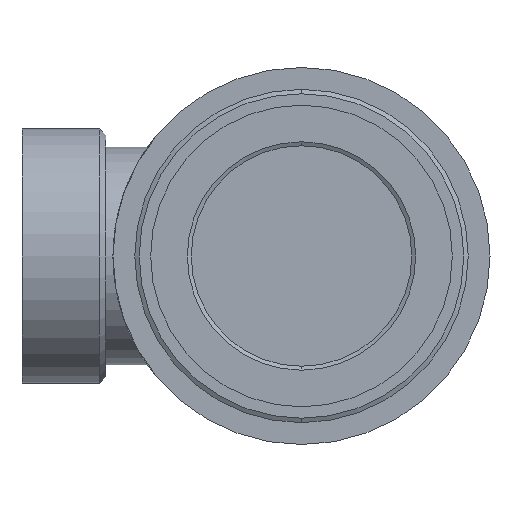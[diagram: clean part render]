
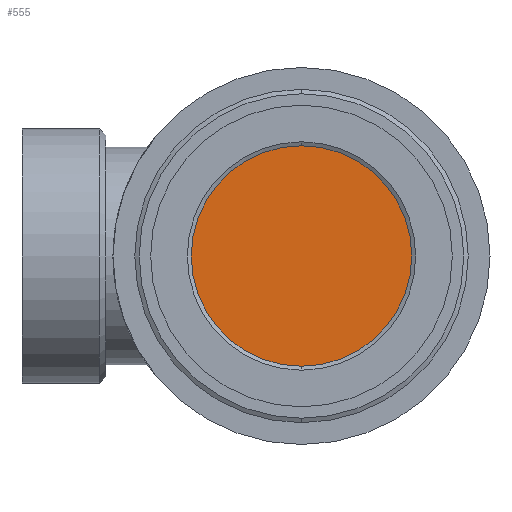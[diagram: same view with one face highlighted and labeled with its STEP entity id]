
A CAD part, front view. The second image highlights one B-rep face of the part: STEP entity #555.
In plain terms, the highlighted planar face has unit normal (0, -1, 0).
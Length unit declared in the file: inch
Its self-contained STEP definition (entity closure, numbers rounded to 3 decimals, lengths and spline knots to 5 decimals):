
#22 = DIRECTION ( 'NONE',  ( 0., 1., 0. ) ) ;
#31 = AXIS2_PLACEMENT_3D ( 'NONE', #527, #789, #921 ) ;
#37 = CIRCLE ( 'NONE', #512, 0.49213 ) ;
#89 = EDGE_LOOP ( 'NONE', ( #1146, #942 ) ) ;
#287 = PLANE ( 'NONE',  #522 ) ;
#296 = CIRCLE ( 'NONE', #31, 0.49213 ) ;
#360 = DIRECTION ( 'NONE',  ( 0., -1., 0. ) ) ;
#380 = DIRECTION ( 'NONE',  ( 0., 0., -1. ) ) ;
#512 = AXIS2_PLACEMENT_3D ( 'NONE', #1538, #360, #380 ) ;
#522 = AXIS2_PLACEMENT_3D ( 'NONE', #802, #22, #1221 ) ;
#527 = CARTESIAN_POINT ( 'NONE',  ( 0., -0.525, 0. ) ) ;
#555 = ADVANCED_FACE ( 'NONE', ( #631 ), #287, .F. ) ;
#631 = FACE_OUTER_BOUND ( 'NONE', #89, .T. ) ;
#769 = EDGE_CURVE ( 'NONE', #1203, #1098, #296, .T. ) ;
#778 = CARTESIAN_POINT ( 'NONE',  ( 0., -0.525, 0.49213 ) ) ;
#789 = DIRECTION ( 'NONE',  ( 0., -1., 0. ) ) ;
#802 = CARTESIAN_POINT ( 'NONE',  ( -0.49213, -0.525, 0. ) ) ;
#921 = DIRECTION ( 'NONE',  ( 0., 0., -1. ) ) ;
#942 = ORIENTED_EDGE ( 'NONE', *, *, #769, .T. ) ;
#1098 = VERTEX_POINT ( 'NONE', #778 ) ;
#1146 = ORIENTED_EDGE ( 'NONE', *, *, #1290, .T. ) ;
#1203 = VERTEX_POINT ( 'NONE', #1521 ) ;
#1221 = DIRECTION ( 'NONE',  ( 0., 0., 1. ) ) ;
#1290 = EDGE_CURVE ( 'NONE', #1098, #1203, #37, .T. ) ;
#1521 = CARTESIAN_POINT ( 'NONE',  ( 0., -0.525, -0.49213 ) ) ;
#1538 = CARTESIAN_POINT ( 'NONE',  ( 0., -0.525, 0. ) ) ;
